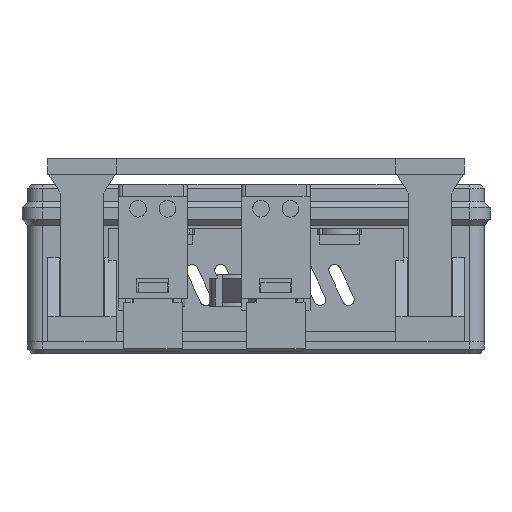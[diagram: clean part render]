
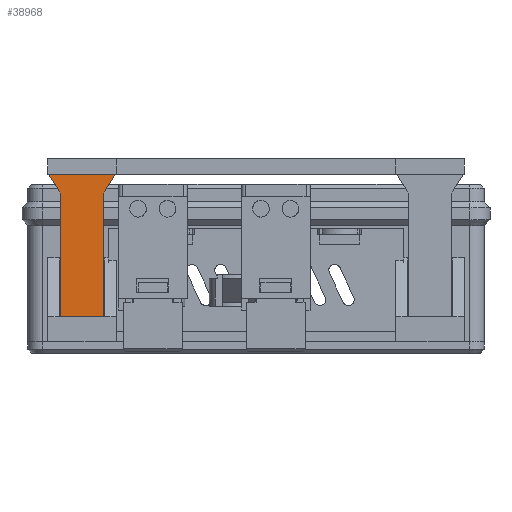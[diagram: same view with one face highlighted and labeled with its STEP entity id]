
A CAD part, left-side view. The second image highlights one B-rep face of the part: STEP entity #38968.
In plain terms, the highlighted planar face has unit normal (-1, 0, 0).
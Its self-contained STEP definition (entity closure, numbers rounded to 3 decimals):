
#36828 = PLANE('',#36829);
#36829 = AXIS2_PLACEMENT_3D('',#36830,#36831,#36832);
#36830 = CARTESIAN_POINT('',(-57.2,42.4,40.));
#36831 = DIRECTION('',(0.,0.,-1.));
#36832 = DIRECTION('',(1.,0.,0.));
#37274 = EDGE_CURVE('',#37275,#37277,#37279,.T.);
#37275 = VERTEX_POINT('',#37276);
#37276 = CARTESIAN_POINT('',(-47.2,42.169,40.));
#37277 = VERTEX_POINT('',#37278);
#37278 = CARTESIAN_POINT('',(-47.2,28.631,40.));
#37279 = SURFACE_CURVE('',#37280,(#37284,#37291),.PCURVE_S1.);
#37280 = LINE('',#37281,#37282);
#37281 = CARTESIAN_POINT('',(-47.2,42.169,40.));
#37282 = VECTOR('',#37283,1.);
#37283 = DIRECTION('',(0.,-1.,0.));
#37284 = PCURVE('',#36828,#37285);
#37285 = DEFINITIONAL_REPRESENTATION('',(#37286),#37290);
#37286 = LINE('',#37287,#37288);
#37287 = CARTESIAN_POINT('',(10.,0.231));
#37288 = VECTOR('',#37289,1.);
#37289 = DIRECTION('',(0.,1.));
#37290 = ( GEOMETRIC_REPRESENTATION_CONTEXT(2) 
PARAMETRIC_REPRESENTATION_CONTEXT() REPRESENTATION_CONTEXT('2D SPACE',''
  ) );
#37291 = PCURVE('',#37292,#37297);
#37292 = PLANE('',#37293);
#37293 = AXIS2_PLACEMENT_3D('',#37294,#37295,#37296);
#37294 = CARTESIAN_POINT('',(-47.2,42.169,11.));
#37295 = DIRECTION('',(-1.,0.,0.));
#37296 = DIRECTION('',(0.,-1.,0.));
#37297 = DEFINITIONAL_REPRESENTATION('',(#37298),#37302);
#37298 = LINE('',#37299,#37300);
#37299 = CARTESIAN_POINT('',(0.,29.));
#37300 = VECTOR('',#37301,1.);
#37301 = DIRECTION('',(1.,0.));
#37302 = ( GEOMETRIC_REPRESENTATION_CONTEXT(2) 
PARAMETRIC_REPRESENTATION_CONTEXT() REPRESENTATION_CONTEXT('2D SPACE',''
  ) );
#37320 = PLANE('',#37321);
#37321 = AXIS2_PLACEMENT_3D('',#37322,#37323,#37324);
#37322 = CARTESIAN_POINT('',(-47.2,31.1,36.));
#37323 = DIRECTION('',(0.,-0.851,-0.525));
#37324 = DIRECTION('',(1.,0.,0.));
#37374 = PLANE('',#37375);
#37375 = AXIS2_PLACEMENT_3D('',#37376,#37377,#37378);
#37376 = CARTESIAN_POINT('',(-37.,39.7,36.));
#37377 = DIRECTION('',(0.,0.851,-0.525));
#37378 = DIRECTION('',(-1.,0.,0.));
#38764 = PLANE('',#38765);
#38765 = AXIS2_PLACEMENT_3D('',#38766,#38767,#38768);
#38766 = CARTESIAN_POINT('',(-47.2,39.7,11.));
#38767 = DIRECTION('',(0.,0.,-1.));
#38768 = DIRECTION('',(1.,0.,0.));
#38784 = VERTEX_POINT('',#38785);
#38785 = CARTESIAN_POINT('',(-47.2,31.1,11.));
#38799 = PLANE('',#38800);
#38800 = AXIS2_PLACEMENT_3D('',#38801,#38802,#38803);
#38801 = CARTESIAN_POINT('',(-47.2,31.1,11.));
#38802 = DIRECTION('',(0.,-1.,0.));
#38803 = DIRECTION('',(1.,0.,0.));
#38811 = EDGE_CURVE('',#38784,#38812,#38814,.T.);
#38812 = VERTEX_POINT('',#38813);
#38813 = CARTESIAN_POINT('',(-47.2,39.7,11.));
#38814 = SURFACE_CURVE('',#38815,(#38819,#38826),.PCURVE_S1.);
#38815 = LINE('',#38816,#38817);
#38816 = CARTESIAN_POINT('',(-47.2,31.1,11.));
#38817 = VECTOR('',#38818,1.);
#38818 = DIRECTION('',(0.,1.,0.));
#38819 = PCURVE('',#38764,#38820);
#38820 = DEFINITIONAL_REPRESENTATION('',(#38821),#38825);
#38821 = LINE('',#38822,#38823);
#38822 = CARTESIAN_POINT('',(0.,8.6));
#38823 = VECTOR('',#38824,1.);
#38824 = DIRECTION('',(0.,-1.));
#38825 = ( GEOMETRIC_REPRESENTATION_CONTEXT(2) 
PARAMETRIC_REPRESENTATION_CONTEXT() REPRESENTATION_CONTEXT('2D SPACE',''
  ) );
#38826 = PCURVE('',#37292,#38827);
#38827 = DEFINITIONAL_REPRESENTATION('',(#38828),#38832);
#38828 = LINE('',#38829,#38830);
#38829 = CARTESIAN_POINT('',(11.069,0.));
#38830 = VECTOR('',#38831,1.);
#38831 = DIRECTION('',(-1.,0.));
#38832 = ( GEOMETRIC_REPRESENTATION_CONTEXT(2) 
PARAMETRIC_REPRESENTATION_CONTEXT() REPRESENTATION_CONTEXT('2D SPACE',''
  ) );
#38848 = PLANE('',#38849);
#38849 = AXIS2_PLACEMENT_3D('',#38850,#38851,#38852);
#38850 = CARTESIAN_POINT('',(-37.,39.7,11.));
#38851 = DIRECTION('',(0.,1.,-0.));
#38852 = DIRECTION('',(-1.,0.,0.));
#38968 = ADVANCED_FACE('',(#38969),#37292,.T.);
#38969 = FACE_BOUND('',#38970,.T.);
#38970 = EDGE_LOOP('',(#38971,#38994,#39015,#39016,#39039,#39060));
#38971 = ORIENTED_EDGE('',*,*,#38972,.T.);
#38972 = EDGE_CURVE('',#37275,#38973,#38975,.T.);
#38973 = VERTEX_POINT('',#38974);
#38974 = CARTESIAN_POINT('',(-47.2,39.7,36.));
#38975 = SURFACE_CURVE('',#38976,(#38980,#38987),.PCURVE_S1.);
#38976 = LINE('',#38977,#38978);
#38977 = CARTESIAN_POINT('',(-47.2,42.169,40.));
#38978 = VECTOR('',#38979,1.);
#38979 = DIRECTION('',(0.,-0.525,-0.851)
  );
#38980 = PCURVE('',#37292,#38981);
#38981 = DEFINITIONAL_REPRESENTATION('',(#38982),#38986);
#38982 = LINE('',#38983,#38984);
#38983 = CARTESIAN_POINT('',(0.,29.));
#38984 = VECTOR('',#38985,1.);
#38985 = DIRECTION('',(0.525,-0.851));
#38986 = ( GEOMETRIC_REPRESENTATION_CONTEXT(2) 
PARAMETRIC_REPRESENTATION_CONTEXT() REPRESENTATION_CONTEXT('2D SPACE',''
  ) );
#38987 = PCURVE('',#37374,#38988);
#38988 = DEFINITIONAL_REPRESENTATION('',(#38989),#38993);
#38989 = LINE('',#38990,#38991);
#38990 = CARTESIAN_POINT('',(10.2,4.701));
#38991 = VECTOR('',#38992,1.);
#38992 = DIRECTION('',(0.,-1.));
#38993 = ( GEOMETRIC_REPRESENTATION_CONTEXT(2) 
PARAMETRIC_REPRESENTATION_CONTEXT() REPRESENTATION_CONTEXT('2D SPACE',''
  ) );
#38994 = ORIENTED_EDGE('',*,*,#38995,.F.);
#38995 = EDGE_CURVE('',#38812,#38973,#38996,.T.);
#38996 = SURFACE_CURVE('',#38997,(#39001,#39008),.PCURVE_S1.);
#38997 = LINE('',#38998,#38999);
#38998 = CARTESIAN_POINT('',(-47.2,39.7,11.));
#38999 = VECTOR('',#39000,1.);
#39000 = DIRECTION('',(0.,0.,1.));
#39001 = PCURVE('',#37292,#39002);
#39002 = DEFINITIONAL_REPRESENTATION('',(#39003),#39007);
#39003 = LINE('',#39004,#39005);
#39004 = CARTESIAN_POINT('',(2.469,0.));
#39005 = VECTOR('',#39006,1.);
#39006 = DIRECTION('',(0.,1.));
#39007 = ( GEOMETRIC_REPRESENTATION_CONTEXT(2) 
PARAMETRIC_REPRESENTATION_CONTEXT() REPRESENTATION_CONTEXT('2D SPACE',''
  ) );
#39008 = PCURVE('',#38848,#39009);
#39009 = DEFINITIONAL_REPRESENTATION('',(#39010),#39014);
#39010 = LINE('',#39011,#39012);
#39011 = CARTESIAN_POINT('',(10.2,0.));
#39012 = VECTOR('',#39013,1.);
#39013 = DIRECTION('',(0.,1.));
#39014 = ( GEOMETRIC_REPRESENTATION_CONTEXT(2) 
PARAMETRIC_REPRESENTATION_CONTEXT() REPRESENTATION_CONTEXT('2D SPACE',''
  ) );
#39015 = ORIENTED_EDGE('',*,*,#38811,.F.);
#39016 = ORIENTED_EDGE('',*,*,#39017,.T.);
#39017 = EDGE_CURVE('',#38784,#39018,#39020,.T.);
#39018 = VERTEX_POINT('',#39019);
#39019 = CARTESIAN_POINT('',(-47.2,31.1,36.));
#39020 = SURFACE_CURVE('',#39021,(#39025,#39032),.PCURVE_S1.);
#39021 = LINE('',#39022,#39023);
#39022 = CARTESIAN_POINT('',(-47.2,31.1,11.));
#39023 = VECTOR('',#39024,1.);
#39024 = DIRECTION('',(0.,0.,1.));
#39025 = PCURVE('',#37292,#39026);
#39026 = DEFINITIONAL_REPRESENTATION('',(#39027),#39031);
#39027 = LINE('',#39028,#39029);
#39028 = CARTESIAN_POINT('',(11.069,0.));
#39029 = VECTOR('',#39030,1.);
#39030 = DIRECTION('',(0.,1.));
#39031 = ( GEOMETRIC_REPRESENTATION_CONTEXT(2) 
PARAMETRIC_REPRESENTATION_CONTEXT() REPRESENTATION_CONTEXT('2D SPACE',''
  ) );
#39032 = PCURVE('',#38799,#39033);
#39033 = DEFINITIONAL_REPRESENTATION('',(#39034),#39038);
#39034 = LINE('',#39035,#39036);
#39035 = CARTESIAN_POINT('',(0.,0.));
#39036 = VECTOR('',#39037,1.);
#39037 = DIRECTION('',(0.,1.));
#39038 = ( GEOMETRIC_REPRESENTATION_CONTEXT(2) 
PARAMETRIC_REPRESENTATION_CONTEXT() REPRESENTATION_CONTEXT('2D SPACE',''
  ) );
#39039 = ORIENTED_EDGE('',*,*,#39040,.F.);
#39040 = EDGE_CURVE('',#37277,#39018,#39041,.T.);
#39041 = SURFACE_CURVE('',#39042,(#39046,#39053),.PCURVE_S1.);
#39042 = LINE('',#39043,#39044);
#39043 = CARTESIAN_POINT('',(-47.2,28.631,40.));
#39044 = VECTOR('',#39045,1.);
#39045 = DIRECTION('',(0.,0.525,-0.851));
#39046 = PCURVE('',#37292,#39047);
#39047 = DEFINITIONAL_REPRESENTATION('',(#39048),#39052);
#39048 = LINE('',#39049,#39050);
#39049 = CARTESIAN_POINT('',(13.538,29.));
#39050 = VECTOR('',#39051,1.);
#39051 = DIRECTION('',(-0.525,-0.851));
#39052 = ( GEOMETRIC_REPRESENTATION_CONTEXT(2) 
PARAMETRIC_REPRESENTATION_CONTEXT() REPRESENTATION_CONTEXT('2D SPACE',''
  ) );
#39053 = PCURVE('',#37320,#39054);
#39054 = DEFINITIONAL_REPRESENTATION('',(#39055),#39059);
#39055 = LINE('',#39056,#39057);
#39056 = CARTESIAN_POINT('',(0.,4.701));
#39057 = VECTOR('',#39058,1.);
#39058 = DIRECTION('',(0.,-1.));
#39059 = ( GEOMETRIC_REPRESENTATION_CONTEXT(2) 
PARAMETRIC_REPRESENTATION_CONTEXT() REPRESENTATION_CONTEXT('2D SPACE',''
  ) );
#39060 = ORIENTED_EDGE('',*,*,#37274,.F.);
